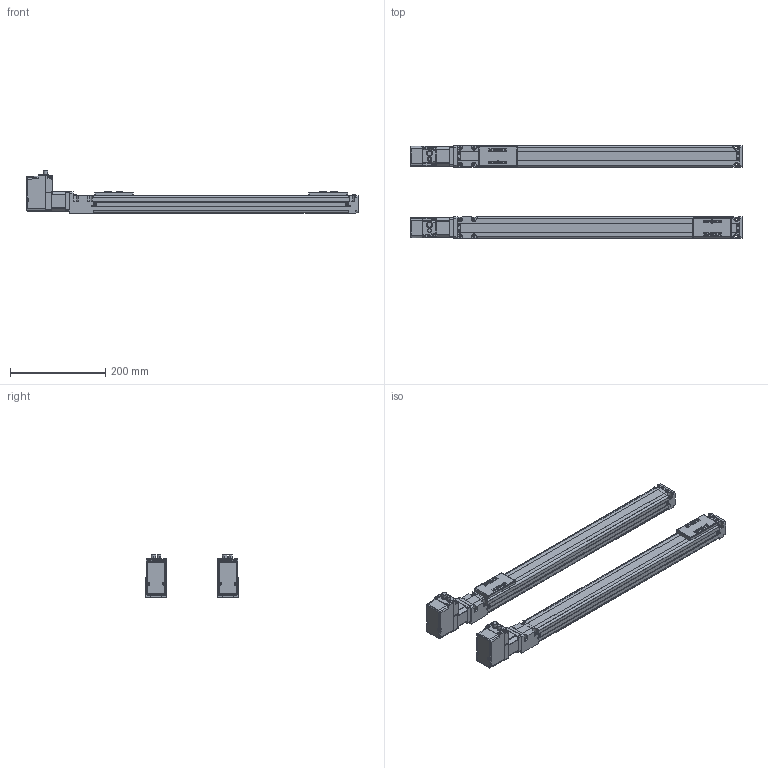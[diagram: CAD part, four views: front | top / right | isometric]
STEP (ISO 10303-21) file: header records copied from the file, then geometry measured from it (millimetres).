
FILE_DESCRIPTION(('STEP AP214'),'1');
FILE_NAME('D:\図面\3D\SCLT4\tmp0.step',' ',(' '),(' '),'XStep 1.0',' ',' ');
FILE_SCHEMA(('automotive_design'));
Length unit declared in the file: millimetre
Products named in the file (30): VLAST45-06-0450-0-0N (0) (450)|_VLA-ST-45-12-0450 Body;_VLA-ST-45-12-0450 Body; VLAST45-06-0450-0-0N (0) (450)|_VLA-ST-45-12-0050 Slider;_VLA-ST-45-12-0050 Slider; 3; 1; 12; 2; 13; 9; 4; 11; 10; 14
Bounding box: 697 x 195 x 88.5 mm (x, y, z)
Volume: 1058767.5 mm3; surface area: 541434.8 mm2
Topology: 30 solids, 30 shells, 2156 faces, 5704 edges, 3612 vertices
Faces by surface type: plane 1124, cylinder 724, cone 220, torus 68, sphere 12, bspline 8
Entity records: 85523 total; most frequent: CARTESIAN_POINT 13234, DIRECTION 11488, ORIENTED_EDGE 11320, EDGE_CURVE 5660, AXIS2_PLACEMENT_3D 3874, LINE 3740, VECTOR 3740, VERTEX_POINT 3612
